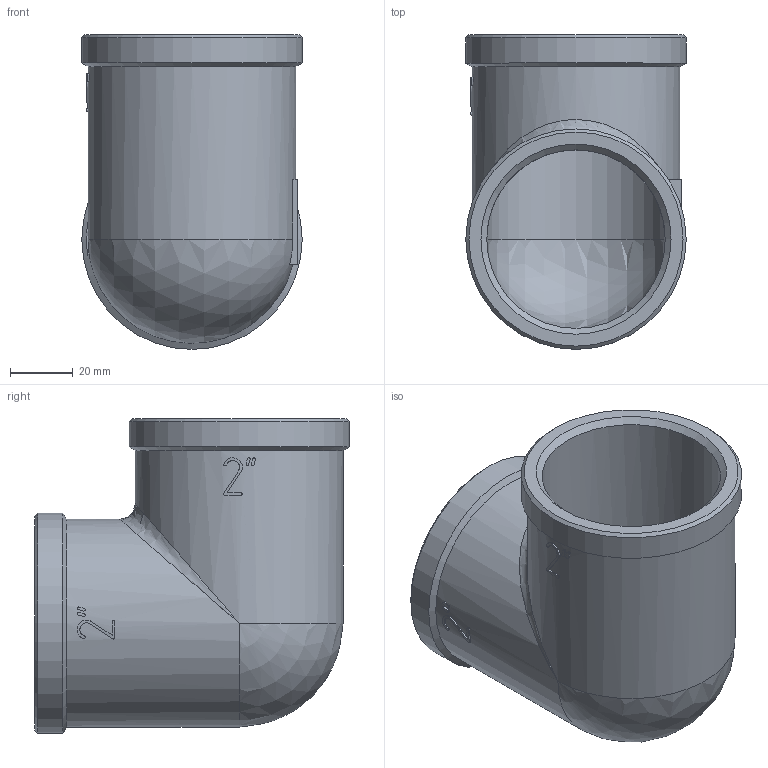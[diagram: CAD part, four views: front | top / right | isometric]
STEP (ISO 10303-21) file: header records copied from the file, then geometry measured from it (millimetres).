
FILE_DESCRIPTION(('STEP AP203'), '1');
FILE_NAME('ÂÐ.752213.012 - VTr.090.N.0009 - Ôèò. ðåçüá. óãîë', '2024-06-19T11:44:11', ('Boss'), (''), 'C3D Converter', 'C3D Toolkit', '');
FILE_SCHEMA(('CONFIG_CONTROL_DESIGN'));
Length unit declared in the file: millimetre
Products named in the file (1): ВР.752213.012
Bounding box: 70 x 100 x 100 mm (x, y, z)
Volume: 121010.9 mm3; surface area: 51461.2 mm2
Topology: 1 solids, 1 shells, 149 faces, 414 edges, 271 vertices
Faces by surface type: extrusion 78, plane 49, cylinder 13, cone 6, sphere 2, bspline 1
Full cylindrical faces by diameter (mm): 56.7 x2, 66 x2, 70 x2
Entity records: 7689 total; most frequent: CARTESIAN_POINT 4361, ORIENTED_EDGE 796, DIRECTION 435, EDGE_CURVE 398, VERTEX_POINT 271, B_SPLINE_CURVE_WITH_KNOTS 240, VECTOR 227, EDGE_LOOP 171
